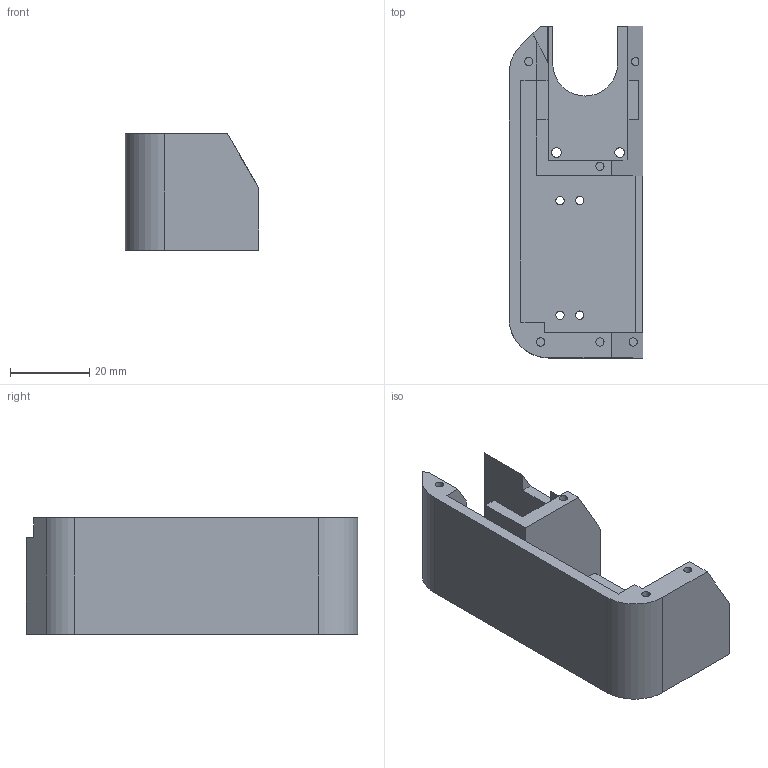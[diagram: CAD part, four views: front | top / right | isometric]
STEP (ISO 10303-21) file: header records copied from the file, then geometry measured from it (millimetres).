
FILE_DESCRIPTION (( 'STEP AP214' ), '1' );
FILE_NAME ('Palm2.STEP', '2026-09-16T05:39:55', ( '' ), ( '' ), 'SwSTEP 2.0', 'SolidWorks 2024', '' );
FILE_SCHEMA (( 'AUTOMOTIVE_DESIGN' ));
Length unit declared in the file: millimetre
Products named in the file (2): Palm2; gx16手掌-2_默认
Assembly tree (1 placements, depth 2):
  Palm2
    gx16手掌-2_默认
Bounding box: 33.9 x 84 x 29.5 mm (x, y, z)
Volume: 25726.8 mm3; surface area: 15662.1 mm2
Topology: 1 solids, 1 shells, 72 faces, 186 edges, 124 vertices
Faces by surface type: plane 42, cylinder 30
Entity records: 2289 total; most frequent: CARTESIAN_POINT 398, DIRECTION 392, ORIENTED_EDGE 372, EDGE_CURVE 186, AXIS2_PLACEMENT_3D 133, LINE 126, VECTOR 126, VERTEX_POINT 124
